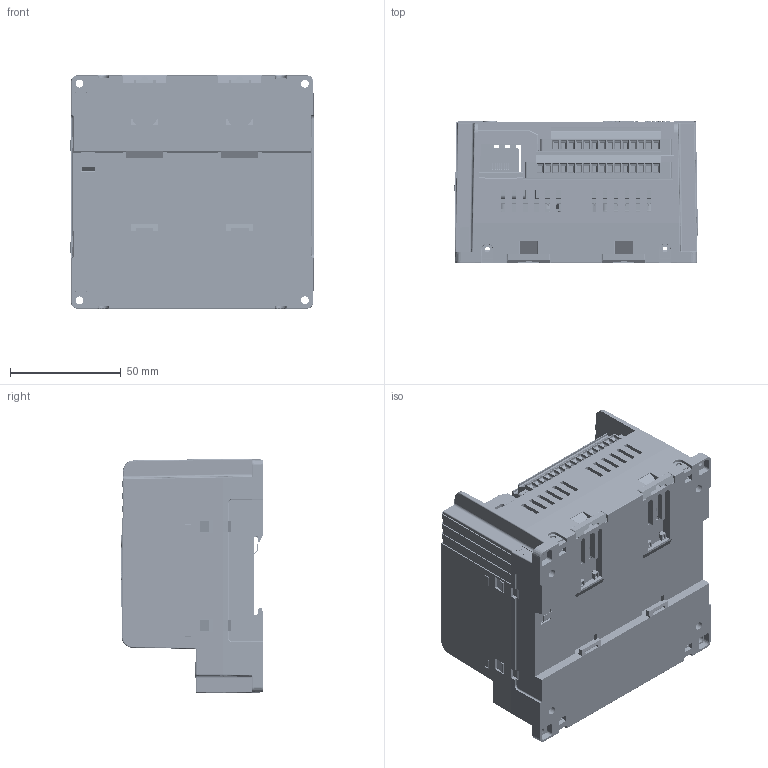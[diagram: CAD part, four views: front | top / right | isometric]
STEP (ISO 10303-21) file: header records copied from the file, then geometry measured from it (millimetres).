
FILE_DESCRIPTION((''),'2;1');
FILE_NAME('SPC-MC12-3D-20240521','2024-05-20T10:06:55',('Administrator'),(''),'CREO PARAMETRIC BY PTC INC, 2023073','CREO PARAMETRIC BY PTC INC, 2023073','');
FILE_SCHEMA(('CONFIG_CONTROL_DESIGN','SHAPE_APPEARANCE_LAYERS_GROUPS'));
Products named in the file (1): SPC-MC12-3D-20240521
Bounding box: 110.14 x 64.4 x 106 mm (x, y, z)
Surface area: 219853.2 mm2 (no closed solid volume)
Topology: 0 solids, 25 shells, 11482 faces, 30827 edges, 20293 vertices
Faces by surface type: plane 7491, cylinder 3516, cone 218, bspline 167, torus 72, sphere 12, extrusion 6
Entity records: 442237 total; most frequent: CARTESIAN_POINT 77730, ORIENTED_EDGE 61646, DIRECTION 59439, EDGE_CURVE 30823, VECTOR 21927, LINE 21921, VERTEX_POINT 20293, AXIS2_PLACEMENT_3D 18756
